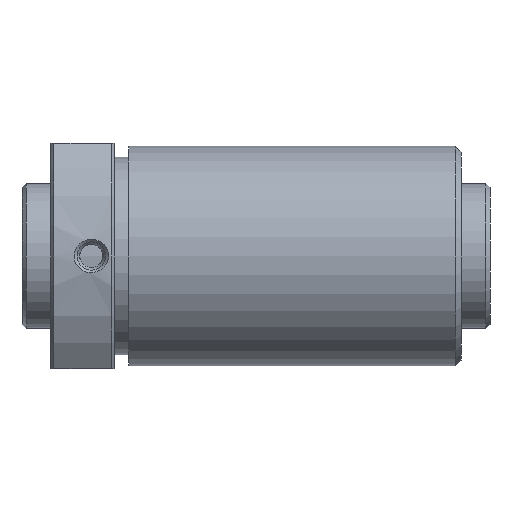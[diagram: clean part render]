
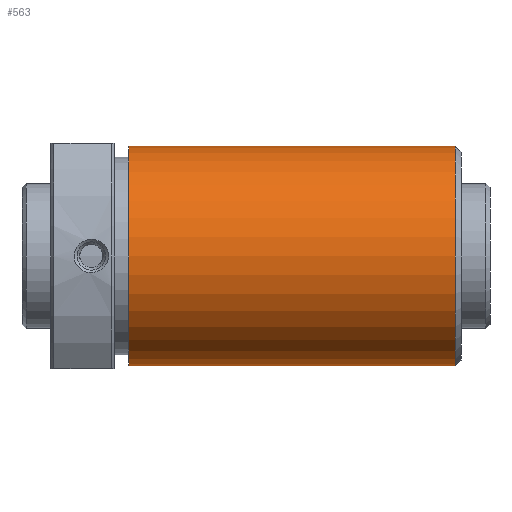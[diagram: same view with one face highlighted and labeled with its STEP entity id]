
A CAD part, front view. The second image highlights one B-rep face of the part: STEP entity #563.
In plain terms, the highlighted cylindrical face has radius 19 mm (diameter 38 mm), a full revolution.
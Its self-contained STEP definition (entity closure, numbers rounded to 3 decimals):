
#69=CYLINDRICAL_SURFACE('',#667,19.);
#169=ORIENTED_EDGE('',*,*,#257,.T.);
#170=ORIENTED_EDGE('',*,*,#256,.F.);
#256=EDGE_CURVE('',#308,#308,#350,.T.);
#257=EDGE_CURVE('',#309,#309,#351,.T.);
#308=VERTEX_POINT('',#1040);
#309=VERTEX_POINT('',#1043);
#350=CIRCLE('',#666,19.);
#351=CIRCLE('',#668,19.);
#417=EDGE_LOOP('',(#169));
#418=EDGE_LOOP('',(#170));
#499=FACE_BOUND('',#417,.T.);
#500=FACE_BOUND('',#418,.T.);
#563=ADVANCED_FACE('',(#499,#500),#69,.T.);
#666=AXIS2_PLACEMENT_3D('',#1039,#825,#826);
#667=AXIS2_PLACEMENT_3D('',#1041,#827,#828);
#668=AXIS2_PLACEMENT_3D('',#1042,#829,#830);
#825=DIRECTION('',(1.,0.,0.));
#826=DIRECTION('',(0.,0.,-1.));
#827=DIRECTION('',(1.,0.,0.));
#828=DIRECTION('',(0.,0.,-1.));
#829=DIRECTION('',(1.,0.,0.));
#830=DIRECTION('',(0.,0.,-1.));
#1039=CARTESIAN_POINT('',(70.,0.,0.));
#1040=CARTESIAN_POINT('',(70.,0.,-19.));
#1041=CARTESIAN_POINT('',(50.,0.,0.));
#1042=CARTESIAN_POINT('',(13.5,0.,0.));
#1043=CARTESIAN_POINT('',(13.5,0.,-19.));
